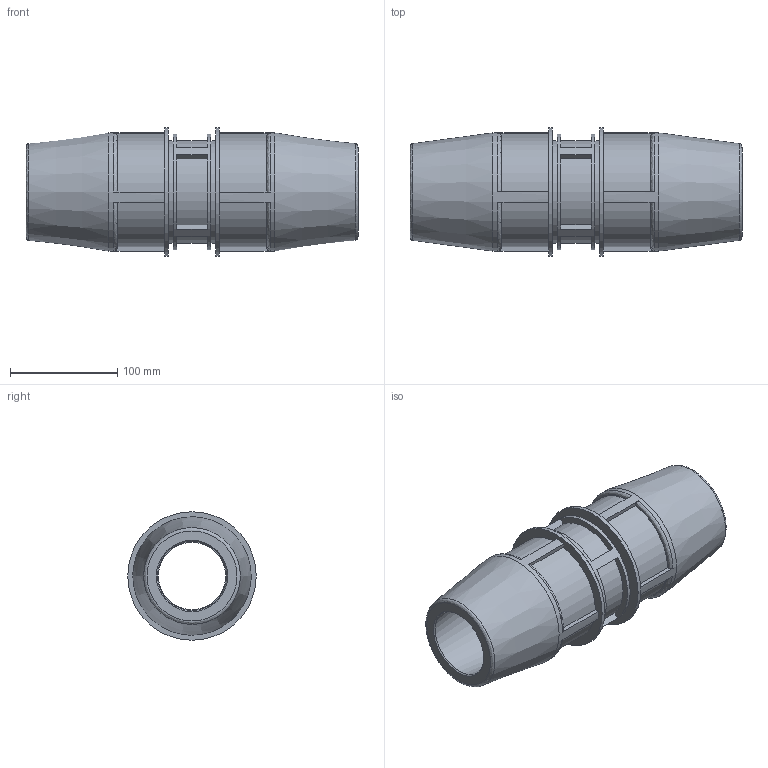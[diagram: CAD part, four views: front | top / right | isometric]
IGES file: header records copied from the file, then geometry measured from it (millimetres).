
Global section: file name: 176100060064_196100060064.ipt; native system: Autodesk Inventor 2015; preprocessor: unknown; author: KIM; date: 20180211.125802; units: millimetre
Bounding box: 310 x 120 x 120 mm (x, y, z)
Volume: 1414506.7 mm3; surface area: 202153.7 mm2
Topology: 1 solids, 1 shells, 86 faces, 221 edges, 148 vertices
Faces by surface type: plane 50, cylinder 19, revolution 15, cone 2
Full cylindrical faces by diameter (mm): 96 x2, 108 x1, 110.4 x2, 120 x2
